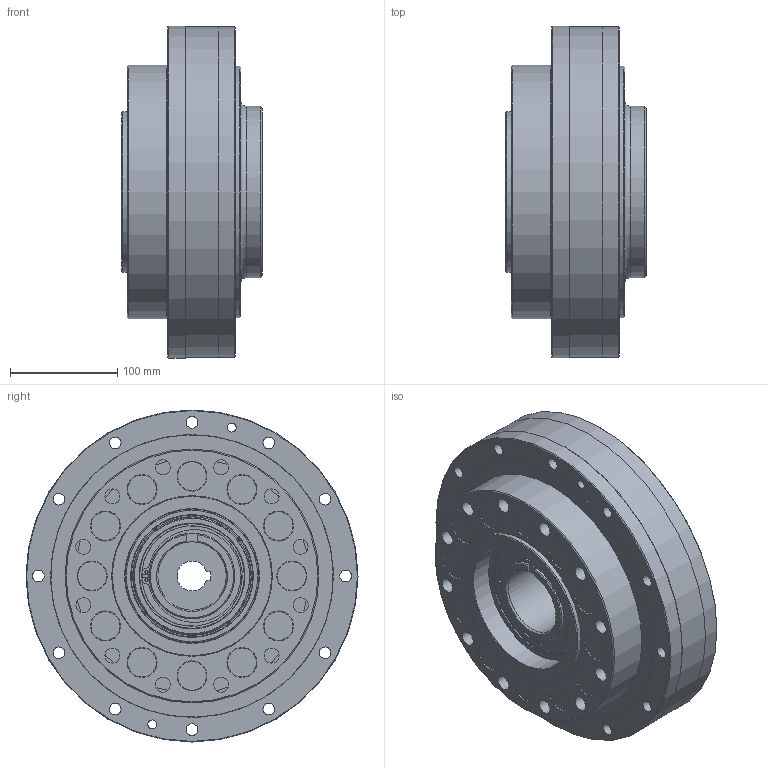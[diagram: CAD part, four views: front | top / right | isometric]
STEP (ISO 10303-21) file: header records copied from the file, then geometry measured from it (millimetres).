
FILE_DESCRIPTION(/* description */ ('Katalogmodell FC-A75G '),/* implementation_level */ '2;1');
FILE_NAME(/* name */ 'C:\Users\ADMINI~1\AppData\Local\Temp\MM16_01_06_Katalogmodell_FC-A75G_.stp',/* time_stamp */ '2018-06-12T17:14:48+02:00',/* author */ ('Max'),/* organization */ (''),/* preprocessor_version */ 'ST-DEVELOPER v17',/* originating_system */ 'Autodesk Inventor 2018',/* authorisation */ '');
FILE_SCHEMA (('AUTOMOTIVE_DESIGN { 1 0 10303 214 3 1 1 }'));
Length unit declared in the file: millimetre
Products named in the file (15): 16_01_06; MM554965-bg; 133767; 133313; 133311; 205208; M205208-1; M205208-2; M205208-3; M205208-4; 200418; 201601; M211368; MM133327; 133310
Assembly tree (32 placements, depth 4):
  16_01_06
    MM554965-bg
      133767
      133313
      133311
      205208  x2
        M205208-1
        M205208-2
        M205208-3
        M205208-4
      200418  x4
      201601
      M211368  x2
    MM133327
    133310
Bounding box: 131 x 310 x 310 mm (x, y, z)
Volume: 6031938.6 mm3; surface area: 784914.6 mm2
Topology: 46 solids, 46 shells, 424 faces, 1122 edges, 801 vertices
Faces by surface type: cylinder 183, plane 160, cone 32, sphere 28, torus 21
Full cylindrical faces by diameter (mm): 3 x4, 4 x2, 4.917 x4, 6 x4, 6.6 x4, 8.376 x2, 10 x4, 11 x30, 13.835 x2, 14 x10, 20 x12, 27 x12, 28 x12, 64 x1, 76.5 x2, 80 x6, 86.5 x1, 93.7 x6, 98 x1, 110 x1, 110.98 x4, 113.82 x2, 114.62 x6, 118 x1, 125 x5, 129 x1, 145 x1, 150 x1, 156 x1, 160 x1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
Entity records: 10660 total; most frequent: DIRECTION 1994, CARTESIAN_POINT 1719, ORIENTED_EDGE 1560, AXIS2_PLACEMENT_3D 875, EDGE_CURVE 780, VERTEX_POINT 561, CIRCLE 523, EDGE_LOOP 479
